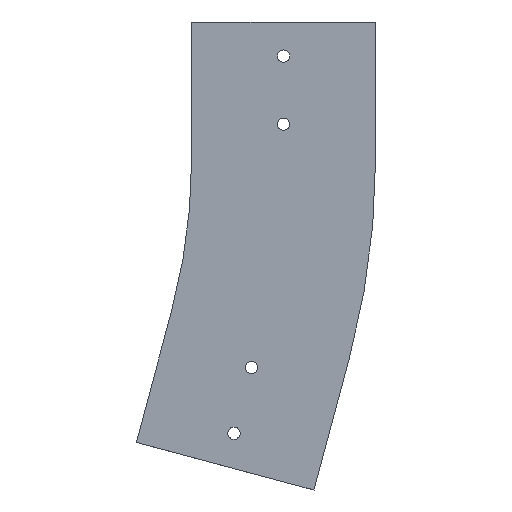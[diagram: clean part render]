
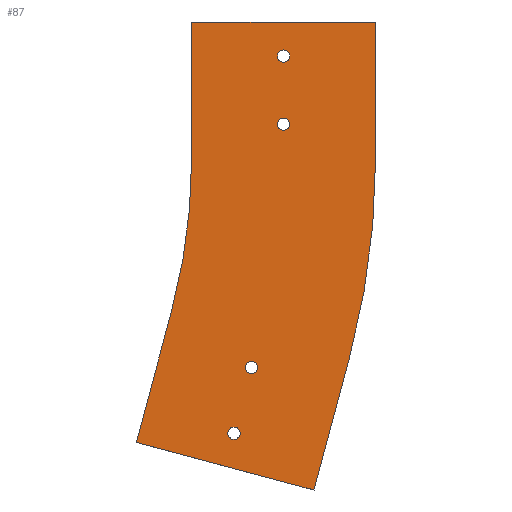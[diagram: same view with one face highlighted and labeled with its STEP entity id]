
A CAD part, left-side view. The second image highlights one B-rep face of the part: STEP entity #87.
In plain terms, the highlighted planar face has unit normal (-1, 0, 0).
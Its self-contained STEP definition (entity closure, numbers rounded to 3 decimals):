
#87 = ADVANCED_FACE ( 'NONE', ( #2274, #2273, #2272, #2271, #2270 ), #684, .T. ) ;
#115 = VERTEX_POINT ( 'NONE', #591 ) ;
#128 = VERTEX_POINT ( 'NONE', #337 ) ;
#142 = VERTEX_POINT ( 'NONE', #349 ) ;
#169 = VERTEX_POINT ( 'NONE', #639 ) ;
#270 = CARTESIAN_POINT ( 'NONE',  ( -43., 108.119, -308.532 ) ) ;
#272 = CARTESIAN_POINT ( 'NONE',  ( -43., -48.163, -246.88 ) ) ;
#273 = CARTESIAN_POINT ( 'NONE',  ( -43., 67.5, 0. ) ) ;
#288 = DIRECTION ( 'NONE',  ( 0., 0.259, -0.966 ) ) ;
#289 = CARTESIAN_POINT ( 'NONE',  ( -43., 82.237, -211.939 ) ) ;
#312 = CARTESIAN_POINT ( 'NONE',  ( -43., 0., -70.5 ) ) ;
#330 = VERTEX_POINT ( 'NONE', #583 ) ;
#331 = VERTEX_POINT ( 'NONE', #582 ) ;
#332 = VERTEX_POINT ( 'NONE', #581 ) ;
#337 = CARTESIAN_POINT ( 'NONE',  ( -43., 23.508, -249.058 ) ) ;
#349 = CARTESIAN_POINT ( 'NONE',  ( -43., 67.5, -100. ) ) ;
#350 = VERTEX_POINT ( 'NONE', #312 ) ;
#361 = VERTEX_POINT ( 'NONE', #497 ) ;
#384 = VERTEX_POINT ( 'NONE', #520 ) ;
#479 = VERTEX_POINT ( 'NONE', #270 ) ;
#482 = VERTEX_POINT ( 'NONE', #272 ) ;
#497 = CARTESIAN_POINT ( 'NONE',  ( -43., 0., -29.5 ) ) ;
#520 = CARTESIAN_POINT ( 'NONE',  ( -43., -67.5, -100. ) ) ;
#536 = CARTESIAN_POINT ( 'NONE',  ( -43., 0., -79.5 ) ) ;
#539 = CARTESIAN_POINT ( 'NONE',  ( -43., 36.449, -306.354 ) ) ;
#548 = CARTESIAN_POINT ( 'NONE',  ( -43., 36.449, -297.354 ) ) ;
#565 = VERTEX_POINT ( 'NONE', #273 ) ;
#581 = CARTESIAN_POINT ( 'NONE',  ( -43., 0., -20.5 ) ) ;
#582 = CARTESIAN_POINT ( 'NONE',  ( -43., -67.5, 0. ) ) ;
#583 = CARTESIAN_POINT ( 'NONE',  ( -43., -22.281, -343.472 ) ) ;
#591 = CARTESIAN_POINT ( 'NONE',  ( -43., 82.237, -211.939 ) ) ;
#621 = VERTEX_POINT ( 'NONE', #536 ) ;
#625 = VERTEX_POINT ( 'NONE', #539 ) ;
#639 = CARTESIAN_POINT ( 'NONE',  ( -43., 23.508, -258.058 ) ) ;
#648 = DIRECTION ( 'NONE',  ( -1., 0., 0. ) ) ;
#672 = DIRECTION ( 'NONE',  ( 0., 0., 1. ) ) ;
#684 = PLANE ( 'NONE',  #2649 ) ;
#690 = CARTESIAN_POINT ( 'NONE',  ( -43., -67.5, -100. ) ) ;
#779 = VERTEX_POINT ( 'NONE', #548 ) ;
#804 = CARTESIAN_POINT ( 'NONE',  ( -43., -67.5, -100. ) ) ;
#805 = DIRECTION ( 'NONE',  ( 0., 0., 1. ) ) ;
#949 = CARTESIAN_POINT ( 'NONE',  ( -43., 23.508, -253.558 ) ) ;
#1101 = DIRECTION ( 'NONE',  ( -1., 0., 0. ) ) ;
#1102 = CARTESIAN_POINT ( 'NONE',  ( -43., 0., -25. ) ) ;
#1103 = DIRECTION ( 'NONE',  ( 0., 0., 1. ) ) ;
#1104 = DIRECTION ( 'NONE',  ( 0., 0., 1. ) ) ;
#1105 = DIRECTION ( 'NONE',  ( -1., 0., 0. ) ) ;
#1108 = CARTESIAN_POINT ( 'NONE',  ( -43., 0., -75. ) ) ;
#1109 = DIRECTION ( 'NONE',  ( -1., 0., 0. ) ) ;
#1110 = CARTESIAN_POINT ( 'NONE',  ( -43., 36.449, -301.854 ) ) ;
#1111 = DIRECTION ( 'NONE',  ( 0., 0., 1. ) ) ;
#1112 = CARTESIAN_POINT ( 'NONE',  ( -43., 500., -100. ) ) ;
#1113 = DIRECTION ( 'NONE',  ( 1., 0., 0. ) ) ;
#1114 = DIRECTION ( 'NONE',  ( 0., 0., -1. ) ) ;
#1132 = DIRECTION ( 'NONE',  ( 0., 0., -1. ) ) ;
#1135 = CARTESIAN_POINT ( 'NONE',  ( -43., 500., -100. ) ) ;
#1136 = DIRECTION ( 'NONE',  ( 1., 0., 0. ) ) ;
#1148 = CARTESIAN_POINT ( 'NONE',  ( -43., -22.281, -343.472 ) ) ;
#1149 = DIRECTION ( 'NONE',  ( 0., -0.966, -0.259 ) ) ;
#1150 = CARTESIAN_POINT ( 'NONE',  ( -43., 67.5, -100. ) ) ;
#1151 = DIRECTION ( 'NONE',  ( 0., 0., 1. ) ) ;
#1152 = DIRECTION ( 'NONE',  ( 0., 0., 1. ) ) ;
#1153 = DIRECTION ( 'NONE',  ( -1., 0., 0. ) ) ;
#1154 = CARTESIAN_POINT ( 'NONE',  ( -43., -67.5, 0. ) ) ;
#1155 = DIRECTION ( 'NONE',  ( 0., -1., 0. ) ) ;
#1389 = ORIENTED_EDGE ( 'NONE', *, *, #2410, .F. ) ;
#1390 = ORIENTED_EDGE ( 'NONE', *, *, #2562, .F. ) ;
#1391 = ORIENTED_EDGE ( 'NONE', *, *, #2411, .F. ) ;
#1392 = ORIENTED_EDGE ( 'NONE', *, *, #2566, .F. ) ;
#1393 = ORIENTED_EDGE ( 'NONE', *, *, #2412, .F. ) ;
#1394 = ORIENTED_EDGE ( 'NONE', *, *, #2570, .F. ) ;
#1395 = ORIENTED_EDGE ( 'NONE', *, *, #2413, .F. ) ;
#1396 = ORIENTED_EDGE ( 'NONE', *, *, #2574, .F. ) ;
#1397 = ORIENTED_EDGE ( 'NONE', *, *, #2414, .F. ) ;
#1398 = ORIENTED_EDGE ( 'NONE', *, *, #2415, .F. ) ;
#1399 = ORIENTED_EDGE ( 'NONE', *, *, #2379, .T. ) ;
#1400 = ORIENTED_EDGE ( 'NONE', *, *, #2351, .T. ) ;
#1401 = ORIENTED_EDGE ( 'NONE', *, *, #2416, .T. ) ;
#1402 = ORIENTED_EDGE ( 'NONE', *, *, #2585, .F. ) ;
#1403 = ORIENTED_EDGE ( 'NONE', *, *, #2375, .F. ) ;
#1404 = ORIENTED_EDGE ( 'NONE', *, *, #2409, .T. ) ;
#1660 = EDGE_LOOP ( 'NONE', ( #1389, #1390 ) ) ;
#1661 = EDGE_LOOP ( 'NONE', ( #1391, #1392 ) ) ;
#1670 = EDGE_LOOP ( 'NONE', ( #1393, #1394 ) ) ;
#1713 = EDGE_LOOP ( 'NONE', ( #1395, #1396 ) ) ;
#1715 = EDGE_LOOP ( 'NONE', ( #1397, #1398, #1399, #1400, #1401, #1402, #1403, #1404 ) ) ;
#1790 = CIRCLE ( 'NONE', #2671, 4.5 ) ;
#1792 = CIRCLE ( 'NONE', #2591, 4.5 ) ;
#1809 = CIRCLE ( 'NONE', #2643, 4.5 ) ;
#1818 = CIRCLE ( 'NONE', #2654, 4.5 ) ;
#1871 = LINE ( 'NONE', #2752, #1892 ) ;
#1892 = VECTOR ( 'NONE', #2754, 1000. ) ;
#2129 = VECTOR ( 'NONE', #1149, 1000. ) ;
#2130 = LINE ( 'NONE', #1148, #2129 ) ;
#2131 = VECTOR ( 'NONE', #1151, 1000. ) ;
#2132 = LINE ( 'NONE', #1150, #2131 ) ;
#2133 = VECTOR ( 'NONE', #1155, 1000. ) ;
#2134 = CIRCLE ( 'NONE', #2598, 4.5 ) ;
#2135 = LINE ( 'NONE', #1154, #2133 ) ;
#2136 = CIRCLE ( 'NONE', #2661, 4.5 ) ;
#2137 = CIRCLE ( 'NONE', #2588, 4.5 ) ;
#2138 = CIRCLE ( 'NONE', #2589, 4.5 ) ;
#2139 = VECTOR ( 'NONE', #805, 1000. ) ;
#2140 = LINE ( 'NONE', #804, #2139 ) ;
#2196 = CIRCLE ( 'NONE', #2603, 432.5 ) ;
#2204 = CIRCLE ( 'NONE', #2687, 567.5 ) ;
#2255 = VECTOR ( 'NONE', #288, 1000. ) ;
#2256 = LINE ( 'NONE', #289, #2255 ) ;
#2270 = FACE_OUTER_BOUND ( 'NONE', #1715, .T. ) ;
#2271 = FACE_BOUND ( 'NONE', #1713, .T. ) ;
#2272 = FACE_BOUND ( 'NONE', #1670, .T. ) ;
#2273 = FACE_BOUND ( 'NONE', #1661, .T. ) ;
#2274 = FACE_BOUND ( 'NONE', #1660, .T. ) ;
#2351 = EDGE_CURVE ( 'NONE', #115, #479, #2256, .T. ) ;
#2375 = EDGE_CURVE ( 'NONE', #384, #482, #2204, .T. ) ;
#2379 = EDGE_CURVE ( 'NONE', #142, #115, #2196, .T. ) ;
#2409 = EDGE_CURVE ( 'NONE', #384, #331, #2140, .T. ) ;
#2410 = EDGE_CURVE ( 'NONE', #350, #621, #2138, .T. ) ;
#2411 = EDGE_CURVE ( 'NONE', #779, #625, #2137, .T. ) ;
#2412 = EDGE_CURVE ( 'NONE', #128, #169, #2136, .T. ) ;
#2413 = EDGE_CURVE ( 'NONE', #332, #361, #2134, .T. ) ;
#2414 = EDGE_CURVE ( 'NONE', #565, #331, #2135, .T. ) ;
#2415 = EDGE_CURVE ( 'NONE', #142, #565, #2132, .T. ) ;
#2416 = EDGE_CURVE ( 'NONE', #479, #330, #2130, .T. ) ;
#2562 = EDGE_CURVE ( 'NONE', #621, #350, #1818, .T. ) ;
#2566 = EDGE_CURVE ( 'NONE', #625, #779, #1809, .T. ) ;
#2570 = EDGE_CURVE ( 'NONE', #169, #128, #1790, .T. ) ;
#2574 = EDGE_CURVE ( 'NONE', #361, #332, #1792, .T. ) ;
#2585 = EDGE_CURVE ( 'NONE', #482, #330, #1871, .T. ) ;
#2588 = AXIS2_PLACEMENT_3D ( 'NONE', #1110, #1153, #1152 ) ;
#2589 = AXIS2_PLACEMENT_3D ( 'NONE', #1108, #1101, #1111 ) ;
#2591 = AXIS2_PLACEMENT_3D ( 'NONE', #2823, #2738, #2781 ) ;
#2598 = AXIS2_PLACEMENT_3D ( 'NONE', #1102, #1109, #1103 ) ;
#2603 = AXIS2_PLACEMENT_3D ( 'NONE', #1112, #1113, #1114 ) ;
#2643 = AXIS2_PLACEMENT_3D ( 'NONE', #2817, #2807, #2809 ) ;
#2649 = AXIS2_PLACEMENT_3D ( 'NONE', #690, #648, #672 ) ;
#2654 = AXIS2_PLACEMENT_3D ( 'NONE', #2815, #2799, #2801 ) ;
#2661 = AXIS2_PLACEMENT_3D ( 'NONE', #949, #1105, #1104 ) ;
#2671 = AXIS2_PLACEMENT_3D ( 'NONE', #2786, #2810, #2820 ) ;
#2687 = AXIS2_PLACEMENT_3D ( 'NONE', #1135, #1136, #1132 ) ;
#2738 = DIRECTION ( 'NONE',  ( -1., 0., 0. ) ) ;
#2752 = CARTESIAN_POINT ( 'NONE',  ( -43., -48.163, -246.88 ) ) ;
#2754 = DIRECTION ( 'NONE',  ( 0., 0.259, -0.966 ) ) ;
#2781 = DIRECTION ( 'NONE',  ( 0., 0., 1. ) ) ;
#2786 = CARTESIAN_POINT ( 'NONE',  ( -43., 23.508, -253.558 ) ) ;
#2799 = DIRECTION ( 'NONE',  ( -1., 0., 0. ) ) ;
#2801 = DIRECTION ( 'NONE',  ( 0., 0., 1. ) ) ;
#2807 = DIRECTION ( 'NONE',  ( -1., 0., 0. ) ) ;
#2809 = DIRECTION ( 'NONE',  ( 0., 0., 1. ) ) ;
#2810 = DIRECTION ( 'NONE',  ( -1., 0., 0. ) ) ;
#2815 = CARTESIAN_POINT ( 'NONE',  ( -43., 0., -75. ) ) ;
#2817 = CARTESIAN_POINT ( 'NONE',  ( -43., 36.449, -301.854 ) ) ;
#2820 = DIRECTION ( 'NONE',  ( 0., 0., 1. ) ) ;
#2823 = CARTESIAN_POINT ( 'NONE',  ( -43., 0., -25. ) ) ;
